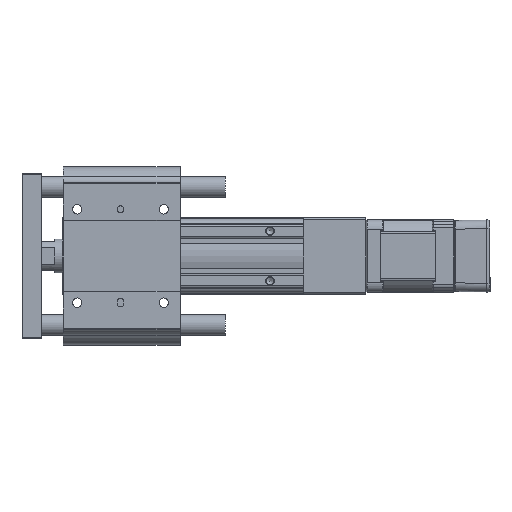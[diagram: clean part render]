
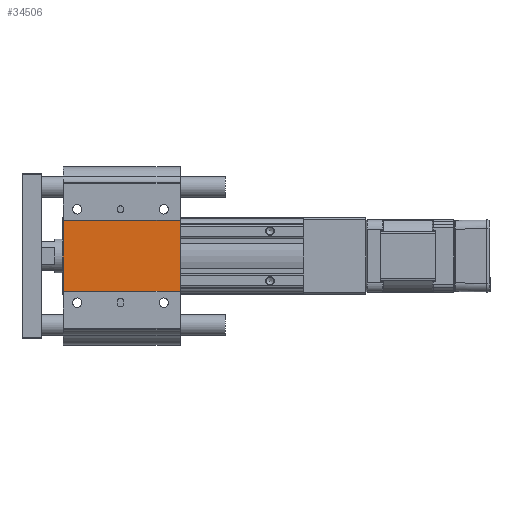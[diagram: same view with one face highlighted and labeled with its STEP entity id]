
A CAD part, front view. The second image highlights one B-rep face of the part: STEP entity #34506.
In plain terms, the highlighted planar face has unit normal (0, -1, 0).
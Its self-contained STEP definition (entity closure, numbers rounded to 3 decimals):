
#959 = ORIENTED_EDGE ( 'NONE', *, *, #26754, .F. ) ;
#2673 = CARTESIAN_POINT ( 'NONE',  ( -20.5, -30.5, -0.5 ) ) ;
#6740 = EDGE_CURVE ( 'NONE', #10803, #7986, #15984, .T. ) ;
#6931 = DIRECTION ( 'NONE',  ( 0., -1., 0. ) ) ;
#7986 = VERTEX_POINT ( 'NONE', #38216 ) ;
#8506 = CARTESIAN_POINT ( 'NONE',  ( -20.5, -30.5, -0.5 ) ) ;
#8705 = VERTEX_POINT ( 'NONE', #2673 ) ;
#9104 = LINE ( 'NONE', #33934, #24507 ) ;
#9163 = DIRECTION ( 'NONE',  ( 0., 0., 1. ) ) ;
#9640 = DIRECTION ( 'NONE',  ( 0., 0., -1. ) ) ;
#10803 = VERTEX_POINT ( 'NONE', #19562 ) ;
#11443 = DIRECTION ( 'NONE',  ( 0., 0., 1. ) ) ;
#11737 = EDGE_CURVE ( 'NONE', #7986, #12203, #9104, .T. ) ;
#11996 = VECTOR ( 'NONE', #32390, 1000. ) ;
#12203 = VERTEX_POINT ( 'NONE', #40238 ) ;
#14178 = VECTOR ( 'NONE', #9163, 1000. ) ;
#14870 = FACE_OUTER_BOUND ( 'NONE', #38658, .T. ) ;
#15984 = LINE ( 'NONE', #29053, #11996 ) ;
#16440 = ORIENTED_EDGE ( 'NONE', *, *, #35699, .F. ) ;
#16714 = CARTESIAN_POINT ( 'NONE',  ( -20.5, -30.5, -102.5 ) ) ;
#19562 = CARTESIAN_POINT ( 'NONE',  ( -20.5, -30.5, -68. ) ) ;
#24084 = AXIS2_PLACEMENT_3D ( 'NONE', #16714, #6931, #9640 ) ;
#24507 = VECTOR ( 'NONE', #11443, 1000. ) ;
#24958 = LINE ( 'NONE', #8506, #31858 ) ;
#26754 = EDGE_CURVE ( 'NONE', #8705, #12203, #24958, .T. ) ;
#29053 = CARTESIAN_POINT ( 'NONE',  ( -20.5, -30.5, -68. ) ) ;
#30646 = PLANE ( 'NONE',  #24084 ) ;
#31858 = VECTOR ( 'NONE', #33958, 1000. ) ;
#32390 = DIRECTION ( 'NONE',  ( 1., 0., 0. ) ) ;
#33934 = CARTESIAN_POINT ( 'NONE',  ( 20.5, -30.5, -102.5 ) ) ;
#33958 = DIRECTION ( 'NONE',  ( 1., 0., 0. ) ) ;
#34506 = ADVANCED_FACE ( 'NONE', ( #14870 ), #30646, .T. ) ;
#35699 = EDGE_CURVE ( 'NONE', #10803, #8705, #41040, .T. ) ;
#38216 = CARTESIAN_POINT ( 'NONE',  ( 20.5, -30.5, -68. ) ) ;
#38404 = ORIENTED_EDGE ( 'NONE', *, *, #11737, .T. ) ;
#38658 = EDGE_LOOP ( 'NONE', ( #959, #16440, #40686, #38404 ) ) ;
#40238 = CARTESIAN_POINT ( 'NONE',  ( 20.5, -30.5, -0.5 ) ) ;
#40686 = ORIENTED_EDGE ( 'NONE', *, *, #6740, .T. ) ;
#40854 = CARTESIAN_POINT ( 'NONE',  ( -20.5, -30.5, -102.5 ) ) ;
#41040 = LINE ( 'NONE', #40854, #14178 ) ;
